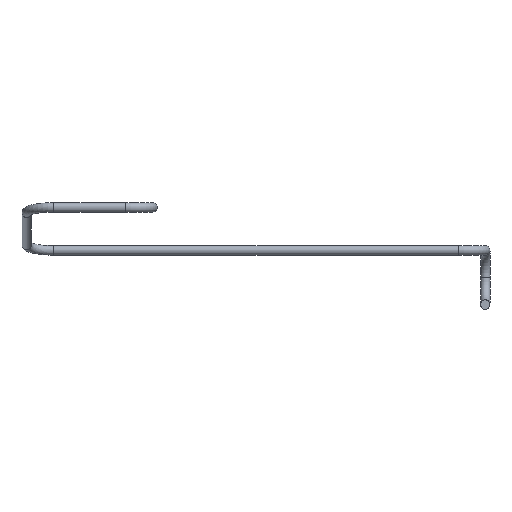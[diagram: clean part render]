
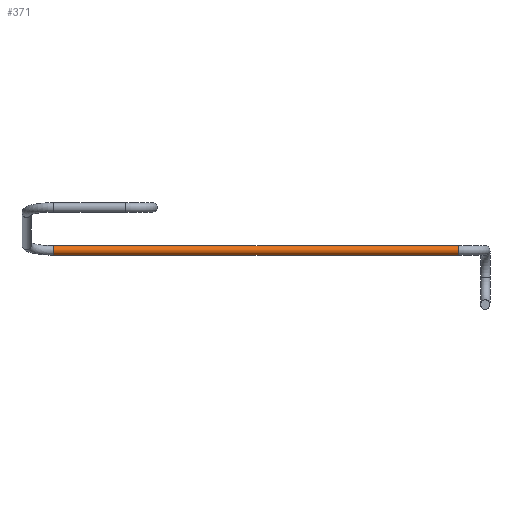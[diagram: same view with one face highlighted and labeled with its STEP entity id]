
A CAD part, left-side view. The second image highlights one B-rep face of the part: STEP entity #371.
In plain terms, the highlighted cylindrical face has radius 0.525 mm (diameter 1.05 mm), a full revolution.
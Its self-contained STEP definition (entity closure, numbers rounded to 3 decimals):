
#305 = TOROIDAL_SURFACE('',#306,3.,0.525);
#306 = AXIS2_PLACEMENT_3D('',#307,#308,#309);
#307 = CARTESIAN_POINT('',(5.5,-32.04,-11.15));
#308 = DIRECTION('',(-0.,-0.,-1.));
#309 = DIRECTION('',(0.,-1.,0.));
#322 = VERTEX_POINT('',#323);
#323 = CARTESIAN_POINT('',(2.5,-32.04,-11.675));
#344 = EDGE_CURVE('',#322,#322,#345,.T.);
#345 = SURFACE_CURVE('',#346,(#351,#358),.PCURVE_S1.);
#346 = CIRCLE('',#347,0.525);
#347 = AXIS2_PLACEMENT_3D('',#348,#349,#350);
#348 = CARTESIAN_POINT('',(2.5,-32.04,-11.15));
#349 = DIRECTION('',(0.,-1.,0.));
#350 = DIRECTION('',(-1.,0.,0.));
#351 = PCURVE('',#305,#352);
#352 = DEFINITIONAL_REPRESENTATION('',(#353),#357);
#353 = LINE('',#354,#355);
#354 = CARTESIAN_POINT('',(1.571,0.));
#355 = VECTOR('',#356,1.);
#356 = DIRECTION('',(0.,1.));
#357 = ( GEOMETRIC_REPRESENTATION_CONTEXT(2) 
PARAMETRIC_REPRESENTATION_CONTEXT() REPRESENTATION_CONTEXT('2D SPACE',''
  ) );
#358 = PCURVE('',#359,#364);
#359 = CYLINDRICAL_SURFACE('',#360,0.525);
#360 = AXIS2_PLACEMENT_3D('',#361,#362,#363);
#361 = CARTESIAN_POINT('',(2.5,-32.04,-11.15));
#362 = DIRECTION('',(0.,1.,0.));
#363 = DIRECTION('',(0.,0.,-1.));
#364 = DEFINITIONAL_REPRESENTATION('',(#365),#368);
#365 = B_SPLINE_CURVE_WITH_KNOTS('',1,(#366,#367),.UNSPECIFIED.,.F.,.F.,
  (2,2),(1.571,7.854),.PIECEWISE_BEZIER_KNOTS.);
#366 = CARTESIAN_POINT('',(6.283,0.));
#367 = CARTESIAN_POINT('',(0.,0.));
#368 = ( GEOMETRIC_REPRESENTATION_CONTEXT(2) 
PARAMETRIC_REPRESENTATION_CONTEXT() REPRESENTATION_CONTEXT('2D SPACE',''
  ) );
#371 = ADVANCED_FACE('',(#372),#359,.T.);
#372 = FACE_BOUND('',#373,.T.);
#373 = EDGE_LOOP('',(#374,#396,#422,#423));
#374 = ORIENTED_EDGE('',*,*,#375,.T.);
#375 = EDGE_CURVE('',#322,#376,#378,.T.);
#376 = VERTEX_POINT('',#377);
#377 = CARTESIAN_POINT('',(2.5,13.,-11.675));
#378 = SEAM_CURVE('',#379,(#383,#389),.PCURVE_S1.);
#379 = LINE('',#380,#381);
#380 = CARTESIAN_POINT('',(2.5,-32.04,-11.675));
#381 = VECTOR('',#382,1.);
#382 = DIRECTION('',(0.,1.,0.));
#383 = PCURVE('',#359,#384);
#384 = DEFINITIONAL_REPRESENTATION('',(#385),#388);
#385 = B_SPLINE_CURVE_WITH_KNOTS('',1,(#386,#387),.UNSPECIFIED.,.F.,.F.,
  (2,2),(0.,45.04),.PIECEWISE_BEZIER_KNOTS.);
#386 = CARTESIAN_POINT('',(6.283,0.));
#387 = CARTESIAN_POINT('',(6.283,45.04));
#388 = ( GEOMETRIC_REPRESENTATION_CONTEXT(2) 
PARAMETRIC_REPRESENTATION_CONTEXT() REPRESENTATION_CONTEXT('2D SPACE',''
  ) );
#389 = PCURVE('',#359,#390);
#390 = DEFINITIONAL_REPRESENTATION('',(#391),#395);
#391 = LINE('',#392,#393);
#392 = CARTESIAN_POINT('',(0.,0.));
#393 = VECTOR('',#394,1.);
#394 = DIRECTION('',(0.,1.));
#395 = ( GEOMETRIC_REPRESENTATION_CONTEXT(2) 
PARAMETRIC_REPRESENTATION_CONTEXT() REPRESENTATION_CONTEXT('2D SPACE',''
  ) );
#396 = ORIENTED_EDGE('',*,*,#397,.F.);
#397 = EDGE_CURVE('',#376,#376,#398,.T.);
#398 = SURFACE_CURVE('',#399,(#404,#411),.PCURVE_S1.);
#399 = CIRCLE('',#400,0.525);
#400 = AXIS2_PLACEMENT_3D('',#401,#402,#403);
#401 = CARTESIAN_POINT('',(2.5,13.,-11.15));
#402 = DIRECTION('',(0.,1.,0.));
#403 = DIRECTION('',(0.,0.,-1.));
#404 = PCURVE('',#359,#405);
#405 = DEFINITIONAL_REPRESENTATION('',(#406),#410);
#406 = LINE('',#407,#408);
#407 = CARTESIAN_POINT('',(0.,45.04));
#408 = VECTOR('',#409,1.);
#409 = DIRECTION('',(1.,0.));
#410 = ( GEOMETRIC_REPRESENTATION_CONTEXT(2) 
PARAMETRIC_REPRESENTATION_CONTEXT() REPRESENTATION_CONTEXT('2D SPACE',''
  ) );
#411 = PCURVE('',#412,#417);
#412 = TOROIDAL_SURFACE('',#413,3.,0.525);
#413 = AXIS2_PLACEMENT_3D('',#414,#415,#416);
#414 = CARTESIAN_POINT('',(-0.44,13.,-10.551));
#415 = DIRECTION('',(0.2,0.,0.98));
#416 = DIRECTION('',(0.98,0.,-0.2)
  );
#417 = DEFINITIONAL_REPRESENTATION('',(#418),#421);
#418 = B_SPLINE_CURVE_WITH_KNOTS('',1,(#419,#420),.UNSPECIFIED.,.F.,.F.,
  (2,2),(0.,6.283),.PIECEWISE_BEZIER_KNOTS.);
#419 = CARTESIAN_POINT('',(0.,11.196));
#420 = CARTESIAN_POINT('',(0.,4.913));
#421 = ( GEOMETRIC_REPRESENTATION_CONTEXT(2) 
PARAMETRIC_REPRESENTATION_CONTEXT() REPRESENTATION_CONTEXT('2D SPACE',''
  ) );
#422 = ORIENTED_EDGE('',*,*,#375,.F.);
#423 = ORIENTED_EDGE('',*,*,#344,.F.);
